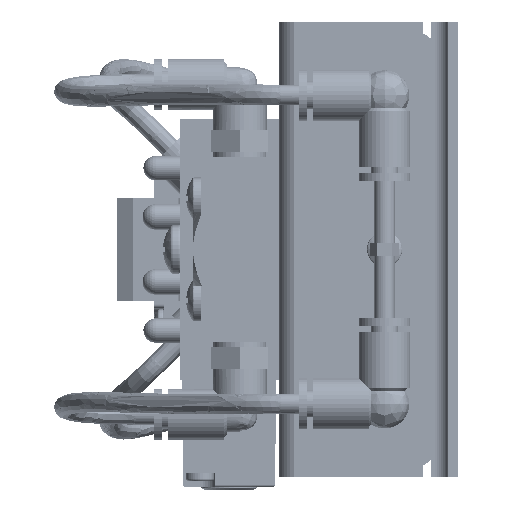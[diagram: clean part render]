
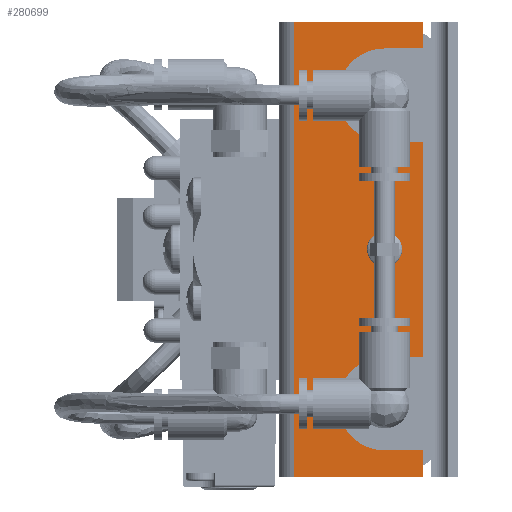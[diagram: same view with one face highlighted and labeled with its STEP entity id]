
A CAD part, left-side view. The second image highlights one B-rep face of the part: STEP entity #280699.
In plain terms, the highlighted planar face has unit normal (-1, 0, 0).
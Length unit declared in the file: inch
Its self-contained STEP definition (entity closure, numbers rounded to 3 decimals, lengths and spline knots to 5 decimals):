
#247 = VERTEX_POINT ( 'NONE', #252898 ) ;
#3081 = AXIS2_PLACEMENT_3D ( 'NONE', #267219, #105735, #237674 ) ;
#6531 = EDGE_CURVE ( 'NONE', #61571, #221689, #99594, .T. ) ;
#7395 = DIRECTION ( 'NONE',  ( -1., 0., 0. ) ) ;
#8515 = CARTESIAN_POINT ( 'NONE',  ( -4.0747, 0.5625, -1.1875 ) ) ;
#10482 = AXIS2_PLACEMENT_3D ( 'NONE', #229452, #123412, #71726 ) ;
#10959 = ORIENTED_EDGE ( 'NONE', *, *, #158250, .F. ) ;
#14535 = CARTESIAN_POINT ( 'NONE',  ( -4.0747, 0.5625, -0.8285 ) ) ;
#16669 = EDGE_CURVE ( 'NONE', #222792, #303642, #294725, .T. ) ;
#18009 = CARTESIAN_POINT ( 'NONE',  ( -4.0747, 0.2625, -1.75 ) ) ;
#21980 = AXIS2_PLACEMENT_3D ( 'NONE', #94485, #232097, #283952 ) ;
#25734 = LINE ( 'NONE', #71176, #236881 ) ;
#29206 = DIRECTION ( 'NONE',  ( 0., 0., 1. ) ) ;
#45474 = DIRECTION ( 'NONE',  ( 0., 1., 0. ) ) ;
#47501 = ORIENTED_EDGE ( 'NONE', *, *, #315899, .T. ) ;
#48570 = VECTOR ( 'NONE', #347759, 39.37008 ) ;
#55378 = VECTOR ( 'NONE', #277822, 39.37008 ) ;
#61571 = VERTEX_POINT ( 'NONE', #177840 ) ;
#63434 = EDGE_CURVE ( 'NONE', #310417, #87770, #210944, .T. ) ;
#65977 = ORIENTED_EDGE ( 'NONE', *, *, #63434, .F. ) ;
#66066 = DIRECTION ( 'NONE',  ( 0., 0., 1. ) ) ;
#71176 = CARTESIAN_POINT ( 'NONE',  ( -4.0747, 0.5625, 0.8285 ) ) ;
#71726 = DIRECTION ( 'NONE',  ( 0., 0., 1. ) ) ;
#74179 = VECTOR ( 'NONE', #216129, 39.37008 ) ;
#86236 = ORIENTED_EDGE ( 'NONE', *, *, #105983, .F. ) ;
#87770 = VERTEX_POINT ( 'NONE', #274640 ) ;
#89098 = LINE ( 'NONE', #89442, #55378 ) ;
#89442 = CARTESIAN_POINT ( 'NONE',  ( -4.0747, 0.2625, -1.75 ) ) ;
#92746 = CARTESIAN_POINT ( 'NONE',  ( -4.0747, 0.5625, 1.5465 ) ) ;
#94485 = CARTESIAN_POINT ( 'NONE',  ( -4.0747, 1.2625, -1.75 ) ) ;
#97933 = PLANE ( 'NONE',  #21980 ) ;
#99131 = ORIENTED_EDGE ( 'NONE', *, *, #110302, .T. ) ;
#99594 = CIRCLE ( 'NONE', #153462, 0.078 ) ;
#101217 = VERTEX_POINT ( 'NONE', #333703 ) ;
#104329 = EDGE_CURVE ( 'NONE', #332824, #247, #198753, .T. ) ;
#105735 = DIRECTION ( 'NONE',  ( -1., 0., 0. ) ) ;
#105983 = EDGE_CURVE ( 'NONE', #101217, #222792, #161870, .T. ) ;
#110302 = EDGE_CURVE ( 'NONE', #150162, #140483, #89098, .T. ) ;
#111024 = DIRECTION ( 'NONE',  ( 0., 0., -1. ) ) ;
#117521 = LINE ( 'NONE', #218107, #214510 ) ;
#118082 = LINE ( 'NONE', #152321, #143351 ) ;
#120536 = DIRECTION ( 'NONE',  ( 0., -1., 0. ) ) ;
#121195 = CARTESIAN_POINT ( 'NONE',  ( -4.0747, 0.5625, 0. ) ) ;
#123412 = DIRECTION ( 'NONE',  ( -1., 0., 0. ) ) ;
#124810 = CIRCLE ( 'NONE', #3081, 0.078 ) ;
#134893 = EDGE_CURVE ( 'NONE', #231615, #246958, #117521, .T. ) ;
#138510 = CARTESIAN_POINT ( 'NONE',  ( -4.0747, 0.5625, -0.078 ) ) ;
#139617 = CARTESIAN_POINT ( 'NONE',  ( -4.0747, 1.2625, -1.75 ) ) ;
#140483 = VERTEX_POINT ( 'NONE', #230830 ) ;
#141012 = FACE_BOUND ( 'NONE', #167990, .T. ) ;
#143351 = VECTOR ( 'NONE', #45474, 39.37008 ) ;
#147778 = ORIENTED_EDGE ( 'NONE', *, *, #134893, .T. ) ;
#150162 = VERTEX_POINT ( 'NONE', #292211 ) ;
#151321 = CARTESIAN_POINT ( 'NONE',  ( -4.0747, 0.2625, -1.5465 ) ) ;
#152321 = CARTESIAN_POINT ( 'NONE',  ( -4.0747, 0.2625, 1.75 ) ) ;
#153462 = AXIS2_PLACEMENT_3D ( 'NONE', #121195, #200128, #66066 ) ;
#153746 = CARTESIAN_POINT ( 'NONE',  ( -4.0747, 1.2625, 1.75 ) ) ;
#157329 = DIRECTION ( 'NONE',  ( 0., 1., 0. ) ) ;
#158250 = EDGE_CURVE ( 'NONE', #221689, #61571, #124810, .T. ) ;
#161870 = CIRCLE ( 'NONE', #210197, 0.359 ) ;
#163030 = CARTESIAN_POINT ( 'NONE',  ( -4.0747, 0.2625, -1.75 ) ) ;
#166408 = EDGE_CURVE ( 'NONE', #332824, #101217, #247873, .T. ) ;
#167990 = EDGE_LOOP ( 'NONE', ( #299218, #10959 ) ) ;
#169077 = EDGE_CURVE ( 'NONE', #246958, #265946, #318480, .T. ) ;
#176070 = DIRECTION ( 'NONE',  ( 0., -1., 0. ) ) ;
#177840 = CARTESIAN_POINT ( 'NONE',  ( -4.0747, 0.5625, 0.078 ) ) ;
#188142 = CARTESIAN_POINT ( 'NONE',  ( -4.0747, 0.2625, -1.75 ) ) ;
#189599 = ORIENTED_EDGE ( 'NONE', *, *, #280140, .T. ) ;
#196779 = DIRECTION ( 'NONE',  ( 0., 0., -1. ) ) ;
#198753 = LINE ( 'NONE', #242305, #257708 ) ;
#200128 = DIRECTION ( 'NONE',  ( -1., 0., 0. ) ) ;
#206326 = ORIENTED_EDGE ( 'NONE', *, *, #104329, .T. ) ;
#209944 = VECTOR ( 'NONE', #306629, 39.37008 ) ;
#210197 = AXIS2_PLACEMENT_3D ( 'NONE', #8515, #7395, #196779 ) ;
#210944 = CIRCLE ( 'NONE', #10482, 0.359 ) ;
#212711 = FACE_OUTER_BOUND ( 'NONE', #312067, .T. ) ;
#214510 = VECTOR ( 'NONE', #111024, 39.37008 ) ;
#216129 = DIRECTION ( 'NONE',  ( 0., -1., 0. ) ) ;
#218107 = CARTESIAN_POINT ( 'NONE',  ( -4.0747, 1.2625, -1.75 ) ) ;
#221689 = VERTEX_POINT ( 'NONE', #138510 ) ;
#222792 = VERTEX_POINT ( 'NONE', #266434 ) ;
#226897 = CARTESIAN_POINT ( 'NONE',  ( -4.0747, 0.2625, -0.8285 ) ) ;
#229291 = LINE ( 'NONE', #348360, #347414 ) ;
#229452 = CARTESIAN_POINT ( 'NONE',  ( -4.0747, 0.5625, 1.1875 ) ) ;
#230830 = CARTESIAN_POINT ( 'NONE',  ( -4.0747, 0.2625, 1.75 ) ) ;
#231615 = VERTEX_POINT ( 'NONE', #153746 ) ;
#232097 = DIRECTION ( 'NONE',  ( 1., 0., 0. ) ) ;
#233418 = ORIENTED_EDGE ( 'NONE', *, *, #335358, .F. ) ;
#236881 = VECTOR ( 'NONE', #120536, 39.37008 ) ;
#237674 = DIRECTION ( 'NONE',  ( 0., 0., 1. ) ) ;
#242305 = CARTESIAN_POINT ( 'NONE',  ( -4.0747, 0.2625, -1.75 ) ) ;
#246958 = VERTEX_POINT ( 'NONE', #139617 ) ;
#247617 = ORIENTED_EDGE ( 'NONE', *, *, #166408, .F. ) ;
#247873 = LINE ( 'NONE', #14535, #209944 ) ;
#252898 = CARTESIAN_POINT ( 'NONE',  ( -4.0747, 0.2625, 0.8285 ) ) ;
#256802 = ORIENTED_EDGE ( 'NONE', *, *, #169077, .T. ) ;
#257708 = VECTOR ( 'NONE', #29206, 39.37008 ) ;
#261046 = VECTOR ( 'NONE', #176070, 39.37008 ) ;
#265946 = VERTEX_POINT ( 'NONE', #188142 ) ;
#266434 = CARTESIAN_POINT ( 'NONE',  ( -4.0747, 0.5625, -1.5465 ) ) ;
#267219 = CARTESIAN_POINT ( 'NONE',  ( -4.0747, 0.5625, 0. ) ) ;
#274640 = CARTESIAN_POINT ( 'NONE',  ( -4.0747, 0.5625, 0.8285 ) ) ;
#275902 = LINE ( 'NONE', #18009, #48570 ) ;
#277822 = DIRECTION ( 'NONE',  ( 0., 0., 1. ) ) ;
#280140 = EDGE_CURVE ( 'NONE', #140483, #231615, #118082, .T. ) ;
#280699 = ADVANCED_FACE ( 'NONE', ( #141012, #212711 ), #97933, .F. ) ;
#283952 = DIRECTION ( 'NONE',  ( 0., 0., -1. ) ) ;
#292211 = CARTESIAN_POINT ( 'NONE',  ( -4.0747, 0.2625, 1.5465 ) ) ;
#292864 = CARTESIAN_POINT ( 'NONE',  ( -4.0747, 0.2625, -1.5465 ) ) ;
#294725 = LINE ( 'NONE', #151321, #261046 ) ;
#296496 = ORIENTED_EDGE ( 'NONE', *, *, #299688, .F. ) ;
#299218 = ORIENTED_EDGE ( 'NONE', *, *, #6531, .F. ) ;
#299688 = EDGE_CURVE ( 'NONE', #87770, #247, #25734, .T. ) ;
#303642 = VERTEX_POINT ( 'NONE', #292864 ) ;
#306629 = DIRECTION ( 'NONE',  ( 0., 1., 0. ) ) ;
#310417 = VERTEX_POINT ( 'NONE', #92746 ) ;
#310747 = ORIENTED_EDGE ( 'NONE', *, *, #16669, .F. ) ;
#312067 = EDGE_LOOP ( 'NONE', ( #65977, #233418, #99131, #189599, #147778, #256802, #47501, #310747, #86236, #247617, #206326, #296496 ) ) ;
#315899 = EDGE_CURVE ( 'NONE', #265946, #303642, #275902, .T. ) ;
#318480 = LINE ( 'NONE', #163030, #74179 ) ;
#332824 = VERTEX_POINT ( 'NONE', #226897 ) ;
#333703 = CARTESIAN_POINT ( 'NONE',  ( -4.0747, 0.5625, -0.8285 ) ) ;
#335358 = EDGE_CURVE ( 'NONE', #150162, #310417, #229291, .T. ) ;
#347414 = VECTOR ( 'NONE', #157329, 39.37008 ) ;
#347759 = DIRECTION ( 'NONE',  ( 0., 0., 1. ) ) ;
#348360 = CARTESIAN_POINT ( 'NONE',  ( -4.0747, 0.2625, 1.5465 ) ) ;
